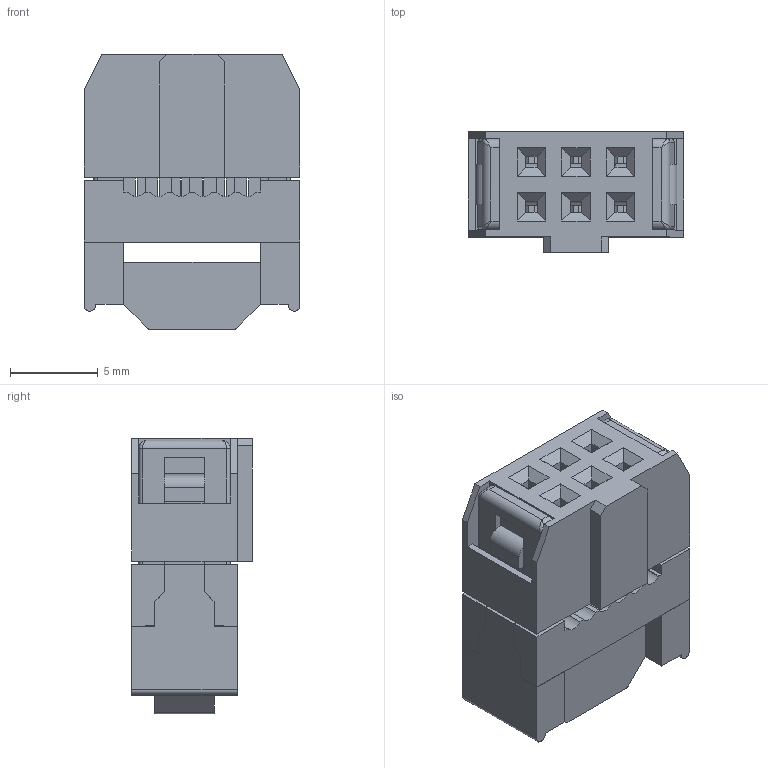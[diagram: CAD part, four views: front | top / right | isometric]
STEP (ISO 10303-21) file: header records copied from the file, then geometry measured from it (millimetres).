
FILE_DESCRIPTION(('FreeCAD Model'),'2;1');
FILE_NAME('C:/Users/Metaltex-99/Desktop/L-06.stp','2020-12-09T08:09:52', ('Engenharia Metaltex'),('Metaltex'),'Open CASCADE STEP processor 7.3' ,'FreeCAD','Unknown');
FILE_SCHEMA(('AUTOMOTIVE_DESIGN { 1 0 10303 214 1 1 1 1 }'));
Length unit declared in the file: millimetre
Products named in the file (4): L-06; 2; 3; 1
Assembly tree (3 placements, depth 2):
  L-06
    2
    3
    1
Bounding box: 12.3 x 6.86 x 15.7 mm (x, y, z)
Volume: 485.3 mm3; surface area: 1813.1 mm2
Topology: 2 solids, 9 shells, 545 faces, 1508 edges, 972 vertices
Faces by surface type: plane 408, cylinder 114, extrusion 11, sphere 4, torus 4, bspline 4
Entity records: 38305 total; most frequent: CARTESIAN_POINT 8017, DIRECTION 5594, VECTOR 3874, LINE 3863, ORIENTED_EDGE 3008, PCURVE 3008, DEFINITIONAL_REPRESENTATION 3008, EDGE_CURVE 1504
